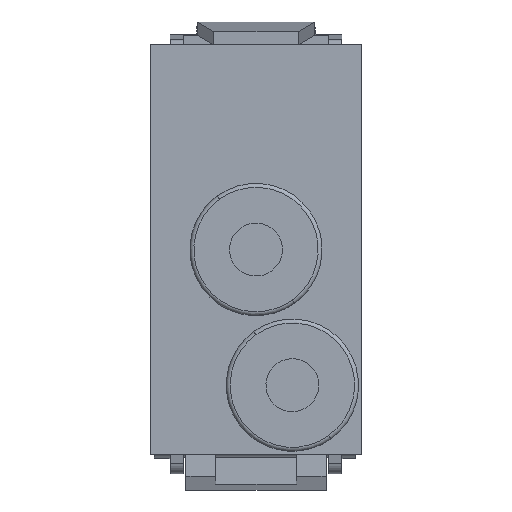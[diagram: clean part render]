
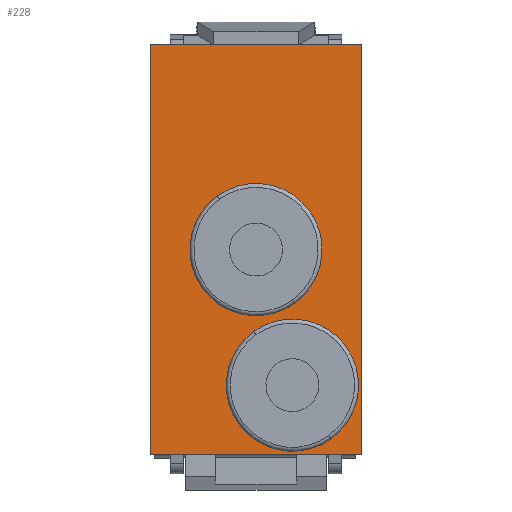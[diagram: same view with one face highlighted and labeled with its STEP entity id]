
A CAD part, front view. The second image highlights one B-rep face of the part: STEP entity #228.
In plain terms, the highlighted planar face has unit normal (0, -1, 0).
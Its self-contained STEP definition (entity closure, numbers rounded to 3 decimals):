
#228=ADVANCED_FACE('NONE',(#592,#593,#594),#595,.F.);
#592=FACE_OUTER_BOUND('',#1061,.T.);
#593=FACE_BOUND('',#1062,.T.);
#594=FACE_BOUND('',#1063,.T.);
#595=PLANE('',#1064);
#1061=EDGE_LOOP('',(#2301,#2302,#2303,#2304));
#1062=EDGE_LOOP('',(#2305,#2306));
#1063=EDGE_LOOP('',(#2307,#2308));
#1064=AXIS2_PLACEMENT_3D('',#2309,#2310,#2311);
#2301=ORIENTED_EDGE('',*,*,#2964,.T.);
#2302=ORIENTED_EDGE('',*,*,#2965,.F.);
#2303=ORIENTED_EDGE('',*,*,#2966,.F.);
#2304=ORIENTED_EDGE('',*,*,#2967,.T.);
#2305=ORIENTED_EDGE('',*,*,#2944,.T.);
#2306=ORIENTED_EDGE('',*,*,#2947,.T.);
#2307=ORIENTED_EDGE('',*,*,#2925,.T.);
#2308=ORIENTED_EDGE('',*,*,#2956,.T.);
#2309=CARTESIAN_POINT('',(8.,0.0,15.5));
#2310=DIRECTION('',(0.0,1.0,0.0));
#2311=DIRECTION('',(1.0,0.0,-0.0));
#2925=EDGE_CURVE('NONE',#3607,#3605,#3608,.T.);
#2944=EDGE_CURVE('NONE',#3644,#3642,#3645,.T.);
#2947=EDGE_CURVE('NONE',#3642,#3644,#3648,.T.);
#2956=EDGE_CURVE('NONE',#3605,#3607,#3657,.T.);
#2964=EDGE_CURVE('NONE',#3665,#3666,#3667,.T.);
#2965=EDGE_CURVE('NONE',#3668,#3666,#3669,.T.);
#2966=EDGE_CURVE('NONE',#3670,#3668,#3671,.T.);
#2967=EDGE_CURVE('NONE',#3670,#3665,#3672,.T.);
#3605=VERTEX_POINT('NONE',#4571);
#3607=VERTEX_POINT('NONE',#4574);
#3608=CIRCLE('',#4575,4.75);
#3642=VERTEX_POINT('NONE',#4616);
#3644=VERTEX_POINT('NONE',#4619);
#3645=CIRCLE('',#4620,4.75);
#3648=CIRCLE('',#4624,4.75);
#3657=CIRCLE('',#4633,4.75);
#3665=VERTEX_POINT('NONE',#4641);
#3666=VERTEX_POINT('NONE',#4642);
#3667=LINE('',#4643,#4644);
#3668=VERTEX_POINT('NONE',#4645);
#3669=LINE('',#4646,#4647);
#3670=VERTEX_POINT('NONE',#4648);
#3671=LINE('',#4649,#4650);
#3672=LINE('',#4651,#4652);
#4571=CARTESIAN_POINT('',(-0.034,0.0,-6.401));
#4574=CARTESIAN_POINT('',(5.534,0.0,-14.099));
#4575=AXIS2_PLACEMENT_3D('',#5486,#5487,#5488);
#4616=CARTESIAN_POINT('',(-2.784,0.0,3.849));
#4619=CARTESIAN_POINT('',(2.784,0.0,-3.849));
#4620=AXIS2_PLACEMENT_3D('',#5527,#5528,#5529);
#4624=AXIS2_PLACEMENT_3D('',#5534,#5535,#5536);
#4633=AXIS2_PLACEMENT_3D('',#5561,#5562,#5563);
#4641=CARTESIAN_POINT('',(-8.,0.0,-15.5));
#4642=CARTESIAN_POINT('',(8.,0.0,-15.5));
#4643=CARTESIAN_POINT('',(8.,0.0,-15.5));
#4644=VECTOR('',#5585,1000.0);
#4645=CARTESIAN_POINT('',(8.,0.0,15.5));
#4646=CARTESIAN_POINT('',(8.,0.0,15.5));
#4647=VECTOR('',#5586,1000.0);
#4648=CARTESIAN_POINT('',(-8.,0.0,15.5));
#4649=CARTESIAN_POINT('',(8.,0.0,15.5));
#4650=VECTOR('',#5587,1000.0);
#4651=CARTESIAN_POINT('',(-8.,0.0,15.5));
#4652=VECTOR('',#5588,1000.0);
#5486=CARTESIAN_POINT('',(2.75,0.0,-10.25));
#5487=DIRECTION('',(0.0,1.0,-0.0));
#5488=DIRECTION('',(0.0,0.0,1.0));
#5527=CARTESIAN_POINT('',(0.0,0.0,0.0));
#5528=DIRECTION('',(0.0,1.0,-0.0));
#5529=DIRECTION('',(0.0,0.0,1.0));
#5534=CARTESIAN_POINT('',(0.0,0.0,0.0));
#5535=DIRECTION('',(0.0,1.0,-0.0));
#5536=DIRECTION('',(0.0,0.0,1.0));
#5561=CARTESIAN_POINT('',(2.75,0.0,-10.25));
#5562=DIRECTION('',(0.0,1.0,-0.0));
#5563=DIRECTION('',(0.0,0.0,1.0));
#5585=DIRECTION('',(1.0,-0.0,-0.0));
#5586=DIRECTION('',(-0.0,-0.0,-1.0));
#5587=DIRECTION('',(1.0,-0.0,-0.0));
#5588=DIRECTION('',(-0.0,-0.0,-1.0));
